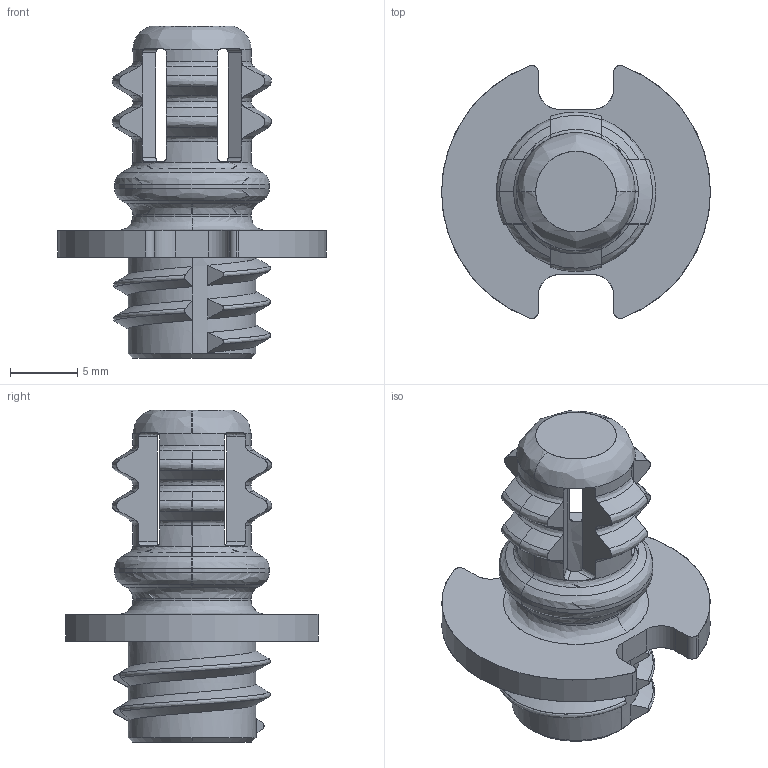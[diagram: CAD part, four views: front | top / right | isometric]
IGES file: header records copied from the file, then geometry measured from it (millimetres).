
Start section: SolidWorks IGES file using analytic representation for surfaces
Global section: file name: D:\Blender\Clients\FAS - Fastmount\FAS000 - General\Customer files\Clip Geometry\PC - Standard Range\IGES\PC-VM1.IGS; native system: SolidWorks 2018; preprocessor: SolidWorks 2018; author: Evan; date: 190204.094610; units: millimetre
Bounding box: 20 x 18.82 x 24.7 mm (x, y, z)
Surface area: 2003.5 mm2 (no closed solid volume)
Topology: 0 solids, 0 shells, 248 faces, 2649 edges, 2647 vertices
Faces by surface type: bspline 174, revolution 74
